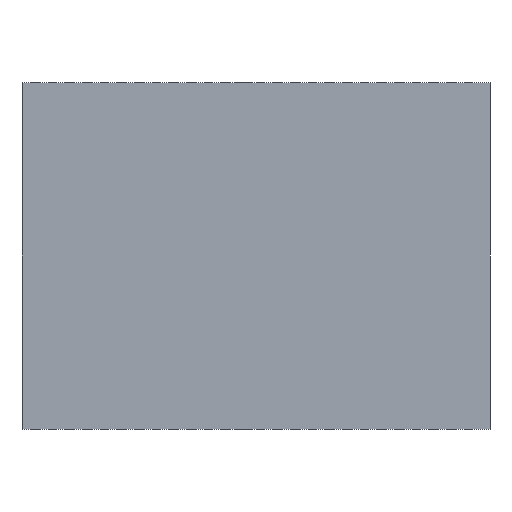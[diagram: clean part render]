
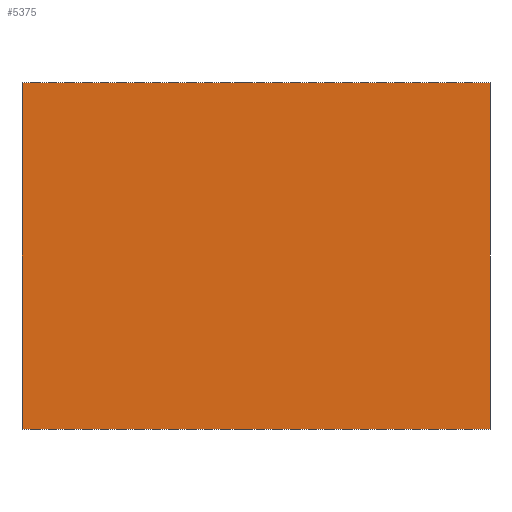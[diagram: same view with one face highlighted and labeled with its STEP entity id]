
A CAD part, front view. The second image highlights one B-rep face of the part: STEP entity #5375.
In plain terms, the highlighted planar face has unit normal (0, -1, 0).
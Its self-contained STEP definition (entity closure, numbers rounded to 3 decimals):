
#13 = CARTESIAN_POINT ( 'NONE',  ( -27., -5., 20. ) ) ;
#43 = ORIENTED_EDGE ( 'NONE', *, *, #1629, .T. ) ;
#289 = DIRECTION ( 'NONE',  ( 0., 1., 0. ) ) ;
#348 = VECTOR ( 'NONE', #2297, 1000. ) ;
#542 = CARTESIAN_POINT ( 'NONE',  ( -27., -5., -20. ) ) ;
#593 = ORIENTED_EDGE ( 'NONE', *, *, #2287, .F. ) ;
#718 = CARTESIAN_POINT ( 'NONE',  ( -27., -5., 20. ) ) ;
#740 = EDGE_CURVE ( 'NONE', #4318, #4808, #2784, .T. ) ;
#797 = VERTEX_POINT ( 'NONE', #4643 ) ;
#1206 = ORIENTED_EDGE ( 'NONE', *, *, #4411, .F. ) ;
#1468 = VECTOR ( 'NONE', #2989, 1000. ) ;
#1487 = CARTESIAN_POINT ( 'NONE',  ( -27., -5., -20. ) ) ;
#1577 = VECTOR ( 'NONE', #2845, 1000. ) ;
#1629 = EDGE_CURVE ( 'NONE', #797, #4318, #2160, .T. ) ;
#1640 = DIRECTION ( 'NONE',  ( 0., 0., -1. ) ) ;
#1968 = ORIENTED_EDGE ( 'NONE', *, *, #740, .T. ) ;
#2160 = LINE ( 'NONE', #718, #5244 ) ;
#2287 = EDGE_CURVE ( 'NONE', #797, #4175, #2667, .T. ) ;
#2297 = DIRECTION ( 'NONE',  ( 1., 0., 0. ) ) ;
#2477 = CARTESIAN_POINT ( 'NONE',  ( 27., -5., 20. ) ) ;
#2541 = AXIS2_PLACEMENT_3D ( 'NONE', #3116, #289, #3501 ) ;
#2580 = PLANE ( 'NONE',  #2541 ) ;
#2667 = LINE ( 'NONE', #13, #348 ) ;
#2784 = LINE ( 'NONE', #1487, #1577 ) ;
#2845 = DIRECTION ( 'NONE',  ( 1., 0., 0. ) ) ;
#2989 = DIRECTION ( 'NONE',  ( 0., 0., -1. ) ) ;
#3116 = CARTESIAN_POINT ( 'NONE',  ( -27., -5., 20. ) ) ;
#3213 = EDGE_LOOP ( 'NONE', ( #1968, #1206, #593, #43 ) ) ;
#3501 = DIRECTION ( 'NONE',  ( 0., 0., 1. ) ) ;
#4175 = VERTEX_POINT ( 'NONE', #5820 ) ;
#4318 = VERTEX_POINT ( 'NONE', #542 ) ;
#4411 = EDGE_CURVE ( 'NONE', #4175, #4808, #5219, .T. ) ;
#4643 = CARTESIAN_POINT ( 'NONE',  ( -27., -5., 20. ) ) ;
#4808 = VERTEX_POINT ( 'NONE', #5508 ) ;
#4924 = FACE_OUTER_BOUND ( 'NONE', #3213, .T. ) ;
#5219 = LINE ( 'NONE', #2477, #1468 ) ;
#5244 = VECTOR ( 'NONE', #1640, 1000. ) ;
#5375 = ADVANCED_FACE ( 'NONE', ( #4924 ), #2580, .F. ) ;
#5508 = CARTESIAN_POINT ( 'NONE',  ( 27., -5., -20. ) ) ;
#5820 = CARTESIAN_POINT ( 'NONE',  ( 27., -5., 20. ) ) ;
